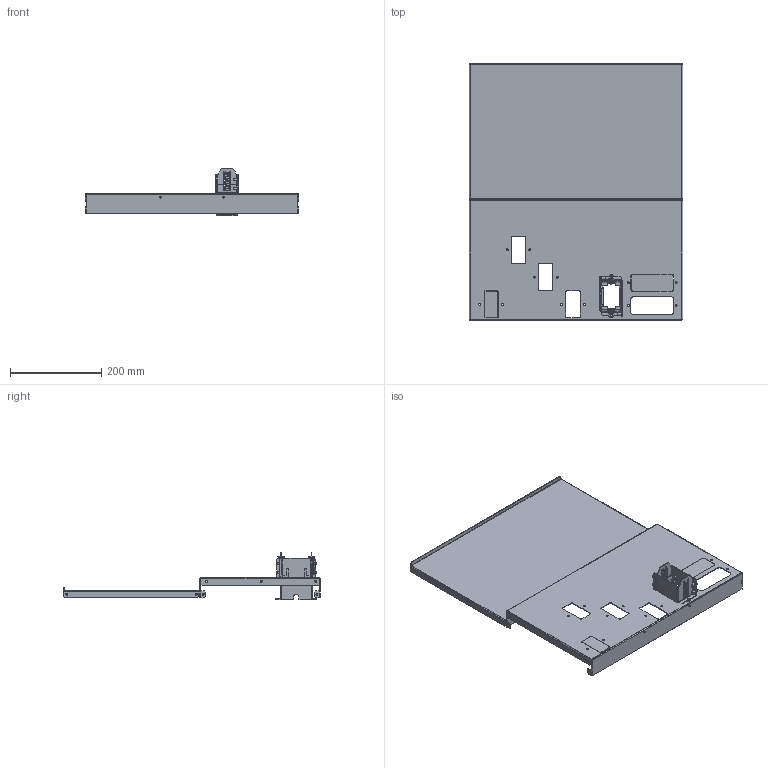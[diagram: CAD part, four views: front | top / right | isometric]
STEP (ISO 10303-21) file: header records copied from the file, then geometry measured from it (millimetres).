
FILE_DESCRIPTION(('CAx-IF Rec.Pracs.---Model Styling and Organization---1.2---2011-12-15','CAx-IF Rec.Pracs.---Geometric and Assembly Validation Properties---4.1---2014-06-16','CAx-IF Rec.Pracs.---PMI Polyline Presentation---2.0---2013-05-24'),'2;1');
FILE_NAME('R5M2W12M1BR61.stp','2021-05-05T12:42:47+03:00',(''),(''),'STEP Interface 4.4 by CT CoreTechnologie','3D_Evolution4.4 by CT CoreTechnologie','');
FILE_SCHEMA(('AUTOMOTIVE_DESIGN { 1 0 10303 214 1 1 1 1 }'));
Length unit declared in the file: millimetre
Products named in the file (9): R5M2W12M1BR61; RB.1567.00.00.0_-00; RB.1765.00.00.0 ÑÁ; M5x8-DIN7500C_stright; RB.1570.00.00.0; RB.1569.00.00.1_-00; RB.1571.00.00.0_In prestressed condition - 40 mm; RB.1506.00.00.0_-06; RB.1507.00.00.0_-04
Assembly tree (14 placements, depth 3):
  R5M2W12M1BR61
    RB.1567.00.00.0_-00
    RB.1765.00.00.0 ÑÁ
      M5x8-DIN7500C_stright  x4
      RB.1570.00.00.0  x2
      RB.1569.00.00.1_-00  x2
      RB.1571.00.00.0_In prestressed condition - 40 mm  x2
    RB.1506.00.00.0_-06
    RB.1507.00.00.0_-04
Bounding box: 470 x 564.2 x 103.8 mm (x, y, z)
Surface area: 703355.4 mm2 (no closed solid volume)
Topology: 0 solids, 22 shells, 758 faces, 2001 edges, 1287 vertices
Faces by surface type: plane 504, cylinder 224, bspline 30
Entity records: 19791 total; most frequent: CARTESIAN_POINT 4693, ORIENTED_EDGE 3022, DIRECTION 3005, EDGE_CURVE 1511, VECTOR 1123, LINE 1123, VERTEX_POINT 969, AXIS2_PLACEMENT_3D 941
